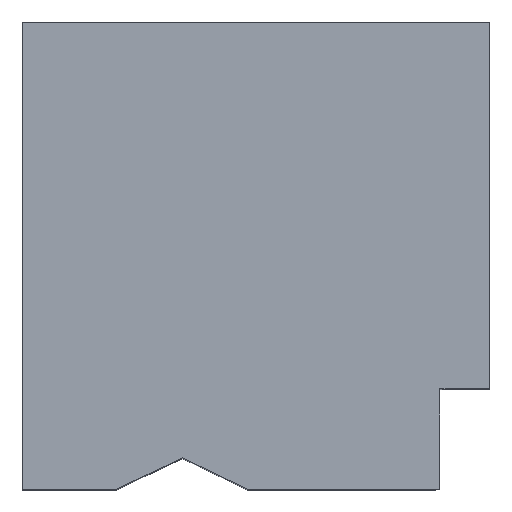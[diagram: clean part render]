
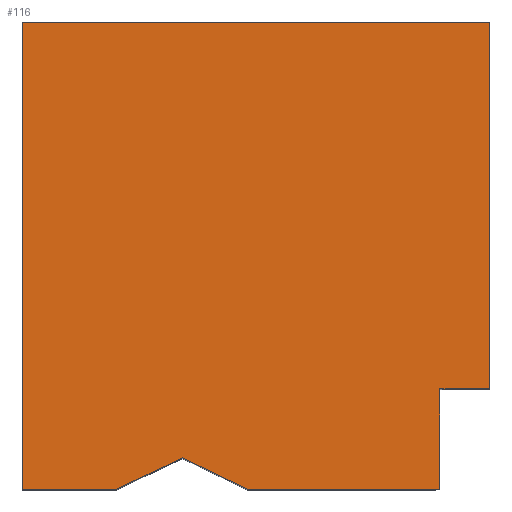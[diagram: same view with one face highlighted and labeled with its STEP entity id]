
A CAD part, top view. The second image highlights one B-rep face of the part: STEP entity #116.
In plain terms, the highlighted planar face has unit normal (0, 0, 1).
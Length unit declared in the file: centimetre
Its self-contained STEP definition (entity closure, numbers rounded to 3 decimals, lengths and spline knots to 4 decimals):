
#16 = CARTESIAN_POINT ( 'NONE',  ( 893.7126, 214.5772, 1000. ) ) ;
#23 = CARTESIAN_POINT ( 'NONE',  ( 202.2351, 0., 1000. ) ) ;
#55 = ORIENTED_EDGE ( 'NONE', *, *, #1044, .T. ) ;
#56 = CARTESIAN_POINT ( 'NONE',  ( 481.4818, 0., 1000. ) ) ;
#57 = CARTESIAN_POINT ( 'NONE',  ( 893.7126, 214.5772, 1000. ) ) ;
#96 = DIRECTION ( 'NONE',  ( 1., 0., 0. ) ) ;
#98 = CARTESIAN_POINT ( 'NONE',  ( 1000., 214.5772, 1000. ) ) ;
#107 = LINE ( 'NONE', #318, #108 ) ;
#108 = VECTOR ( 'NONE', #1397, 100. ) ;
#116 = ADVANCED_FACE ( 'NONE', ( #1485 ), #308, .T. ) ;
#129 = CARTESIAN_POINT ( 'NONE',  ( 0., 0., 1000. ) ) ;
#188 = DIRECTION ( 'NONE',  ( 0.901, -0.433, 0. ) ) ;
#193 = EDGE_CURVE ( 'NONE', #1115, #245, #1412, .T. ) ;
#201 = VECTOR ( 'NONE', #726, 100. ) ;
#221 = EDGE_CURVE ( 'NONE', #1243, #838, #956, .T. ) ;
#228 = VECTOR ( 'NONE', #380, 100. ) ;
#240 = CARTESIAN_POINT ( 'NONE',  ( 1000., 1000., 1000. ) ) ;
#245 = VERTEX_POINT ( 'NONE', #1394 ) ;
#262 = LINE ( 'NONE', #1442, #201 ) ;
#308 = PLANE ( 'NONE',  #511 ) ;
#318 = CARTESIAN_POINT ( 'NONE',  ( 202.2351, 0., 1000. ) ) ;
#347 = CARTESIAN_POINT ( 'NONE',  ( 0., 0., 1000. ) ) ;
#355 = ORIENTED_EDGE ( 'NONE', *, *, #1148, .T. ) ;
#360 = LINE ( 'NONE', #713, #434 ) ;
#373 = CARTESIAN_POINT ( 'NONE',  ( 893.7126, 0., 1000. ) ) ;
#380 = DIRECTION ( 'NONE',  ( 0., -1., 0. ) ) ;
#406 = EDGE_LOOP ( 'NONE', ( #566, #471, #932, #1344, #1297, #1186, #55, #528, #355 ) ) ;
#411 = LINE ( 'NONE', #990, #537 ) ;
#413 = EDGE_CURVE ( 'NONE', #245, #1243, #411, .T. ) ;
#434 = VECTOR ( 'NONE', #949, 100. ) ;
#471 = ORIENTED_EDGE ( 'NONE', *, *, #773, .F. ) ;
#480 = EDGE_CURVE ( 'NONE', #1230, #1500, #761, .T. ) ;
#511 = AXIS2_PLACEMENT_3D ( 'NONE', #679, #685, #1152 ) ;
#528 = ORIENTED_EDGE ( 'NONE', *, *, #480, .T. ) ;
#537 = VECTOR ( 'NONE', #1350, 100. ) ;
#566 = ORIENTED_EDGE ( 'NONE', *, *, #781, .F. ) ;
#658 = VECTOR ( 'NONE', #96, 100. ) ;
#679 = CARTESIAN_POINT ( 'NONE',  ( 0., 0., 1000. ) ) ;
#685 = DIRECTION ( 'NONE',  ( 0., 0., 1. ) ) ;
#713 = CARTESIAN_POINT ( 'NONE',  ( 0., 0., 1000. ) ) ;
#726 = DIRECTION ( 'NONE',  ( -1., 0., 0. ) ) ;
#761 = LINE ( 'NONE', #984, #1291 ) ;
#773 = EDGE_CURVE ( 'NONE', #1058, #944, #262, .T. ) ;
#777 = VECTOR ( 'NONE', #1288, 100. ) ;
#781 = EDGE_CURVE ( 'NONE', #944, #1275, #863, .T. ) ;
#793 = VECTOR ( 'NONE', #1298, 100. ) ;
#838 = VERTEX_POINT ( 'NONE', #23 ) ;
#863 = LINE ( 'NONE', #16, #228 ) ;
#932 = ORIENTED_EDGE ( 'NONE', *, *, #1179, .T. ) ;
#944 = VERTEX_POINT ( 'NONE', #57 ) ;
#949 = DIRECTION ( 'NONE',  ( 1., 0., 0. ) ) ;
#956 = LINE ( 'NONE', #347, #658 ) ;
#984 = CARTESIAN_POINT ( 'NONE',  ( 341.8585, 67.1269, 1000. ) ) ;
#990 = CARTESIAN_POINT ( 'NONE',  ( 0., 1000., 1000. ) ) ;
#1030 = CARTESIAN_POINT ( 'NONE',  ( 1000., 1000., 1000. ) ) ;
#1044 = EDGE_CURVE ( 'NONE', #838, #1230, #107, .T. ) ;
#1058 = VERTEX_POINT ( 'NONE', #98 ) ;
#1115 = VERTEX_POINT ( 'NONE', #1030 ) ;
#1148 = EDGE_CURVE ( 'NONE', #1500, #1275, #360, .T. ) ;
#1152 = DIRECTION ( 'NONE',  ( 1., 0., 0. ) ) ;
#1179 = EDGE_CURVE ( 'NONE', #1058, #1115, #1300, .T. ) ;
#1186 = ORIENTED_EDGE ( 'NONE', *, *, #221, .T. ) ;
#1206 = CARTESIAN_POINT ( 'NONE',  ( 341.8585, 67.1269, 1000. ) ) ;
#1230 = VERTEX_POINT ( 'NONE', #1206 ) ;
#1243 = VERTEX_POINT ( 'NONE', #129 ) ;
#1275 = VERTEX_POINT ( 'NONE', #373 ) ;
#1276 = CARTESIAN_POINT ( 'NONE',  ( 0., 1000., 1000. ) ) ;
#1288 = DIRECTION ( 'NONE',  ( 0., 1., 0. ) ) ;
#1291 = VECTOR ( 'NONE', #188, 100. ) ;
#1297 = ORIENTED_EDGE ( 'NONE', *, *, #413, .T. ) ;
#1298 = DIRECTION ( 'NONE',  ( -1., 0., 0. ) ) ;
#1300 = LINE ( 'NONE', #240, #777 ) ;
#1344 = ORIENTED_EDGE ( 'NONE', *, *, #193, .T. ) ;
#1350 = DIRECTION ( 'NONE',  ( 0., -1., 0. ) ) ;
#1394 = CARTESIAN_POINT ( 'NONE',  ( 0., 1000., 1000. ) ) ;
#1397 = DIRECTION ( 'NONE',  ( 0.901, 0.433, 0. ) ) ;
#1412 = LINE ( 'NONE', #1276, #793 ) ;
#1442 = CARTESIAN_POINT ( 'NONE',  ( 1000., 214.5772, 1000. ) ) ;
#1485 = FACE_OUTER_BOUND ( 'NONE', #406, .T. ) ;
#1500 = VERTEX_POINT ( 'NONE', #56 ) ;
